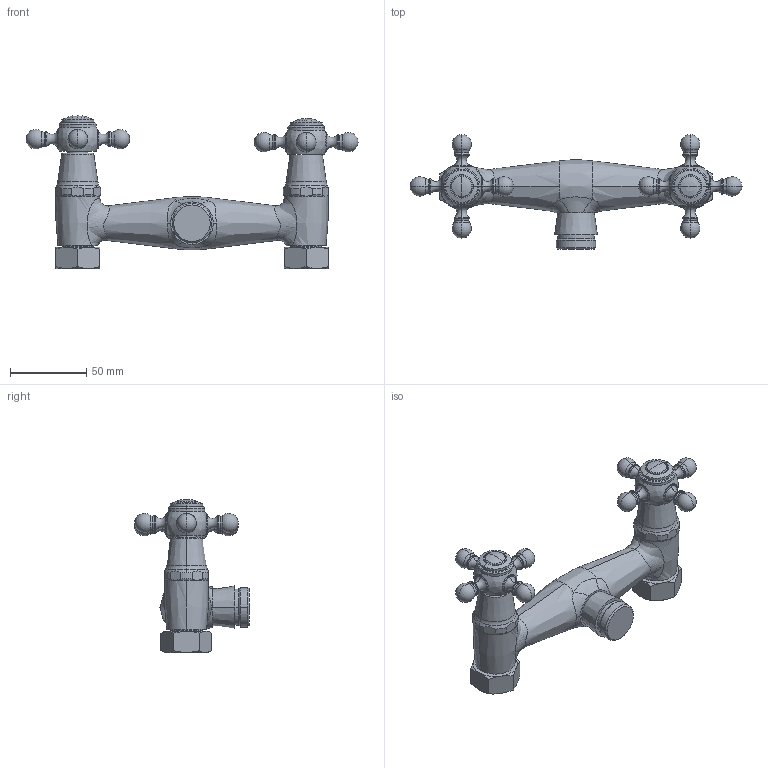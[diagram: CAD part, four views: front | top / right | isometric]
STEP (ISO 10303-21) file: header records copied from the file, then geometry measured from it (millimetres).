
FILE_DESCRIPTION((''),'2;1');
FILE_NAME('37046--00','2026-09-10T11:38:15',('clra1'),(''),'CREO PARAMETRIC BY PTC INC, 2022244','CREO PARAMETRIC BY PTC INC, 2022244','');
FILE_SCHEMA(('CONFIG_CONTROL_DESIGN'));
Length unit declared in the file: millimetre
Products named in the file (1): 37046--00
Bounding box: 218 x 75.25 x 100.6 mm (x, y, z)
Surface area: 43177.5 mm2 (no closed solid volume)
Topology: 0 solids, 21 shells, 299 faces, 676 edges, 374 vertices
Faces by surface type: torus 130, cone 42, bspline 39, plane 38, cylinder 30, sphere 20
Entity records: 13107 total; most frequent: CARTESIAN_POINT 6628, DIRECTION 1508, ORIENTED_EDGE 1262, AXIS2_PLACEMENT_3D 710, EDGE_CURVE 656, CIRCLE 450, VERTEX_POINT 374, EDGE_LOOP 299
